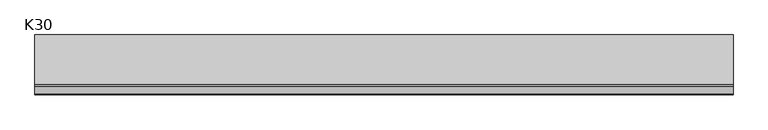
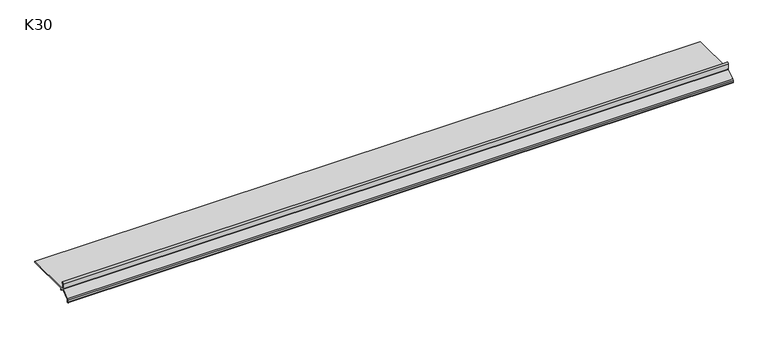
"""IFC4 building model written with IfcOpenShell, lengths in millimetres: proxy geometry, K30 Profil okapowy prosty : K30."""

from ifc_helpers import new_model, si_unit, frame, origin, place, context, project, spatial, polyline, circle_curve, source, transform, mapped, element, save
from ifc_brep_helpers import plane_surface, cylinder_surface, revolved_surface, advanced_brep


def k30_8c66ed92(model_context):
    return source(origin(), model_context, "Body", "AdvancedBrep", [
        advanced_brep(
        [(0.0, 91.6460788, -13.5016844), (0.0, 91.6460788, -15.1970829), (0.0, 5.0074458, -15.1970829), (0.0, 5.0074458, -19.1975491), (0.0, 4.0074458, -19.1975491), (0.0, 4.0074458, -15.1975491), (0.0, -2.7771023, -15.1975491), (0.0, -16.2971103, -25.3819245), (0.0, -17.0937577, -26.9794046), (0.0, -17.0937577, -30.413733), (0.0, -18.7937577, -30.413733), (0.0, -18.7937577, -26.6303216), (0.0, -17.5987866, -24.2341015), (0.0, -3.2334641, -13.4129661), (0.0, -2.800002, -12.5354797), (0.0, -2.800002, -2.7535764), (0.0, 0.0, 0.0), (0.0, 0.0, -1.79984), (0.0, -0.9925542, -2.7625682), (0.0, -0.9925542, -13.5016844), (1288.1098559, 91.6460788, -13.5016844), (1288.1098559, -0.9925542, -13.5016844), (1288.1098559, -0.9925542, -2.7625682), (1288.1098559, 0.0, -1.79984), (1288.1098559, 0.0, 0.0), (1288.1098559, -2.7996151, -2.7535764), (1288.1098559, -2.800002, -12.5354797), (1288.1098559, -3.2334641, -13.4129661), (1288.1098559, -17.5987866, -24.2341015), (1288.1098559, -18.7937577, -26.6303216), (1288.1098559, -18.7937577, -30.413733), (1288.1098559, -17.0937577, -30.413733), (1288.1098559, -17.0937577, -26.9794046), (1288.1098559, -16.2971103, -25.3819245), (1288.1098559, -2.7771023, -15.1975491), (1288.1098559, 4.0074458, -15.1975491), (1288.1098559, 4.0074458, -19.1975491), (1288.1098559, 5.0074458, -19.1975491), (1288.1098559, 5.0074458, -15.1970829), (1288.1098559, 91.6460788, -15.1970829)],
        [
            (0, 1),
            (1, 2),
            (2, 3),
            (3, 4),
            (4, 5),
            (5, 6),
            (6, 7),
            (7, 8, circle_curve(frame((0.0, -15.0937577, -26.9794046), z_axis=(1.0, 0.0, 0.0), x_axis=(0.0, -0.6016762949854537, 0.7987400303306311)), 2.0)),
            (8, 9),
            (9, 10, circle_curve(frame((0.0, -17.9437577, -30.413733), z_axis=(-1.0, 0.0, 0.0), x_axis=(0.0, 1.0, -1.0699937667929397e-12)), 0.85)),
            (10, 11),
            (11, 12, circle_curve(frame((0.0, -15.7937577, -26.6303216), z_axis=(-1.0, 0.0, 0.0), x_axis=(0.0, -1.0, 0.0)), 3.0)),
            (12, 13),
            (13, 14, circle_curve(frame((0.0, -3.8882646, -12.5437023), z_axis=(1.0, 0.0, 0.0), x_axis=(0.0, 0.6016762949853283, -0.7987400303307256)), 1.0882937)),
            (14, 15),
            (15, 16, circle_curve(frame((0.0, -0.0455531, -2.7536853), z_axis=(-1.0, 0.0, 0.0), x_axis=(0.0, -0.9999999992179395, 3.954897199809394e-05)), 2.754062)),
            (16, 17),
            (17, 18, circle_curve(frame((0.0, -0.0049314, -2.7877721), z_axis=(1.0, 0.0, 0.0), x_axis=(0.0, 0.004991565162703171, 0.9999875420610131)), 0.9879444)),
            (18, 19),
            (19, 0),
            (20, 21),
            (21, 22),
            (22, 23, circle_curve(frame((1288.1098559, -0.0049314, -2.7877721), z_axis=(-1.0, 0.0, 0.0), x_axis=(0.0, 0.004991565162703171, 0.9999875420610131)), 0.9879444)),
            (23, 24),
            (24, 25, circle_curve(frame((1288.1098559, -0.0455531, -2.7536853), z_axis=(1.0, 0.0, 0.0), x_axis=(0.0, -0.9999999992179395, 3.954897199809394e-05)), 2.754062)),
            (25, 26),
            (26, 27, circle_curve(frame((1288.1098559, -3.8882646, -12.5437023), z_axis=(-1.0, 0.0, 0.0), x_axis=(0.0, 0.6016762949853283, -0.7987400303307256)), 1.0882937)),
            (27, 28),
            (28, 29, circle_curve(frame((1288.1098559, -15.7937577, -26.6303216), z_axis=(1.0, 0.0, 0.0), x_axis=(0.0, -1.0, 0.0)), 3.0)),
            (29, 30),
            (30, 31, circle_curve(frame((1288.1098559, -17.9437577, -30.413733), z_axis=(1.0, 0.0, 0.0), x_axis=(0.0, 1.0, -1.0699937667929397e-12)), 0.85)),
            (31, 32),
            (32, 33, circle_curve(frame((1288.1098559, -15.0937577, -26.9794046), z_axis=(-1.0, 0.0, 0.0), x_axis=(0.0, -0.6016762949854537, 0.7987400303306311)), 2.0)),
            (33, 34),
            (34, 35),
            (35, 36),
            (36, 37),
            (37, 38),
            (38, 39),
            (39, 20),
            (19, 21),
            (20, 0),
            (39, 1),
            (38, 2),
            (37, 3),
            (36, 4),
            (35, 5),
            (34, 6),
            (33, 7),
            (32, 8),
            (31, 9),
            (30, 10),
            (29, 11),
            (28, 12),
            (27, 13),
            (26, 14),
            (25, 15),
            (24, 16),
            (23, 17),
            (22, 18),
        ],
        [
            plane_surface(frame((0.0, 0.0, 0.0), z_axis=(-1.0, 0.0, 0.0), x_axis=(0.0, 0.0, 1.0))),
            plane_surface(frame((1288.1098559, 0.0, 0.0), z_axis=(1.0, 0.0, 0.0), x_axis=(0.0, 0.0, 1.0))),
            plane_surface(frame((0.0, -0.9925542, -13.5016844), z_axis=(0.0, 0.0, 1.0), x_axis=(1.0, 0.0, 0.0))),
            plane_surface(frame((0.0, 91.6460788, -13.5016844), z_axis=(0.0, 1.0, 0.0), x_axis=(1.0, 0.0, 0.0))),
            plane_surface(frame((0.0, 91.6460788, -15.1970829), z_axis=(0.0, 0.0, -1.0), x_axis=(1.0, 0.0, 0.0))),
            plane_surface(frame((0.0, 5.0074458, -15.1970829), z_axis=(0.0, 1.0, 0.0), x_axis=(1.0, 0.0, 0.0))),
            plane_surface(frame((0.0, 5.0074458, -19.1975491), z_axis=(0.0, 0.0, -1.0), x_axis=(1.0, 0.0, 0.0))),
            plane_surface(frame((0.0, 4.0074458, -19.1975491), z_axis=(0.0, -1.0, 0.0), x_axis=(1.0, 0.0, 0.0))),
            plane_surface(frame((0.0, 4.0074458, -15.1975491), z_axis=(0.0, 0.0, -1.0), x_axis=(1.0, 0.0, 0.0))),
            plane_surface(frame((0.0, -2.7771023, -15.1975491), z_axis=(0.0, 0.6016762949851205, -0.798740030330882), x_axis=(1.0, 0.0, 0.0))),
            revolved_surface(polyline([(1288.1098559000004, -16.297110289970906, -25.381924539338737), (0.0, -16.297110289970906, -25.381924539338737)]), (0.0, -15.0937577, -26.9794046), (1.0000000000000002, 0.0, 0.0)),
            plane_surface(frame((0.0, -17.0937577, -26.9794046), z_axis=(0.0, 1.0, 0.0), x_axis=(1.0, 0.0, 0.0))),
            cylinder_surface(frame((0.0, -17.9437577, -30.413733), z_axis=(-1.0, 0.0, 0.0), x_axis=(0.0, 1.0, -1.0699937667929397e-12)), 0.85),
            plane_surface(frame((0.0, -18.7937577, -30.413733), z_axis=(0.0, -1.0, 0.0), x_axis=(1.0, 0.0, 0.0))),
            cylinder_surface(frame((0.0, -15.7937577, -26.6303216), z_axis=(-1.0, 0.0, 0.0), x_axis=(0.0, -1.0, 0.0)), 3.0),
            plane_surface(frame((0.0, -17.5987866, -24.2341015), z_axis=(0.0, -0.6016762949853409, 0.7987400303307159), x_axis=(1.0, 0.0, 0.0))),
            revolved_surface(polyline([(1288.1098559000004, -3.2334640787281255, -13.412966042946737), (0.0, -3.2334640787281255, -13.412966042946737)]), (0.0, -3.8882646, -12.5437023), (1.0000000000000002, 0.0, 0.0)),
            plane_surface(frame((0.0, -2.800002, -12.5354797), z_axis=(0.0, -1.0, 0.0), x_axis=(1.0, 0.0, 0.0))),
            cylinder_surface(frame((0.0, -0.0455531, -2.7536853), z_axis=(-1.0000000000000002, 0.0, 0.0), x_axis=(0.0, -0.9999999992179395, 3.954897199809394e-05)), 2.754062),
            plane_surface(frame((0.0, 0.0, 0.0), z_axis=(0.0, 1.0, 0.0), x_axis=(1.0, 0.0, 0.0))),
            revolved_surface(polyline([(1288.1098559, -1.115027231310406e-08, -1.799840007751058), (0.0, -1.115027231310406e-08, -1.799840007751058)]), (0.0, -0.0049314, -2.7877721), (1.0, 0.0, 0.0)),
            plane_surface(frame((0.0, -0.9925542, -2.7625682), z_axis=(0.0, 1.0, 0.0), x_axis=(1.0, 0.0, 0.0))),
        ],
        [
            (0, [[1, 2, 3, 4, 5, 6, 7, 8, 9, 10, 11, 12, 13, 14, 15, 16, 17, 18, 19, 20]]),
            (1, [[21, 22, 23, 24, 25, 26, 27, 28, 29, 30, 31, 32, 33, 34, 35, 36, 37, 38, 39, 40]]),
            (2, [[-20, 41, -21, 42]]),
            (3, [[-1, -42, -40, 43]]),
            (4, [[-2, -43, -39, 44]]),
            (5, [[-3, -44, -38, 45]]),
            (6, [[-4, -45, -37, 46]]),
            (7, [[-5, -46, -36, 47]]),
            (8, [[-6, -47, -35, 48]]),
            (9, [[-7, -48, -34, 49]]),
            (10, [[-8, -49, -33, 50]]),
            (11, [[-9, -50, -32, 51]]),
            (12, [[-10, -51, -31, 52]]),
            (13, [[-11, -52, -30, 53]]),
            (14, [[-12, -53, -29, 54]]),
            (15, [[-13, -54, -28, 55]]),
            (16, [[-14, -55, -27, 56]]),
            (17, [[-15, -56, -26, 57]]),
            (18, [[-16, -57, -25, 58]]),
            (19, [[-17, -58, -24, 59]]),
            (20, [[-18, -59, -23, 60]]),
            (21, [[-19, -60, -22, -41]]),
        ],
    ),
    ])


if __name__ == "__main__":
    model = new_model("IFC4")
    model_context = context("Model", 3, world=origin())
    ifc_project = project(units=[si_unit("LENGTHUNIT", "METRE", prefix="MILLI")], contexts=[model_context])
    site = spatial("IfcSite", under=ifc_project)
    building = spatial("IfcBuilding", under=site)
    placement = place(None, origin())
    k30_shape = k30_8c66ed92(model_context)
    element("IfcBuildingElementProxy", 1, Name="K30 Profil okapowy prosty : K30", ObjectType="K30 Profil okapowy prosty : K30", at=placement, inside=building, context=model_context, shape_type="MappedRepresentation", body=[
        mapped(k30_shape, transform((0.0, 0.0, 0.0), x_axis=(1.0, 0.0, 0.0), y_axis=(0.0, 1.0, 0.0), z_axis=(0.0, 0.0, 1.0))),
    ])
    save(model, "model.ifc")
